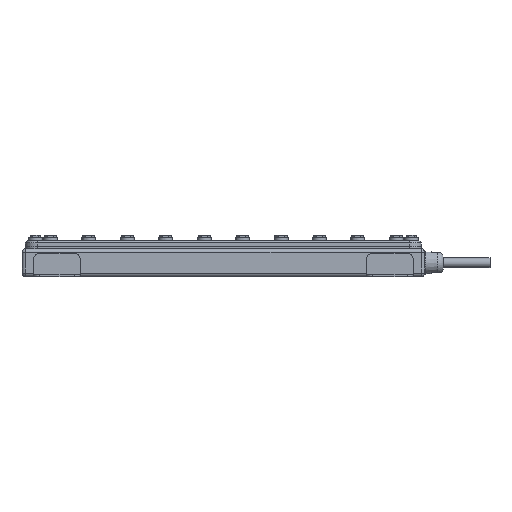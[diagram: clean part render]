
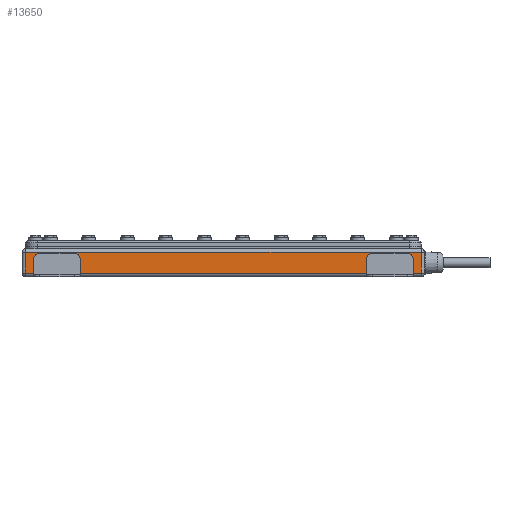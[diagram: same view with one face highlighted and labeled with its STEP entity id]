
A CAD part, front view. The second image highlights one B-rep face of the part: STEP entity #13650.
In plain terms, the highlighted planar face has unit normal (0, -1, 0).
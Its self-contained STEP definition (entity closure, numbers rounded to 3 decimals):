
#70 = AXIS2_PLACEMENT_3D ( 'NONE', #18233, #13494, #10799 ) ;
#112 = VERTEX_POINT ( 'NONE', #4411 ) ;
#127 = LINE ( 'NONE', #14952, #18665 ) ;
#159 = VECTOR ( 'NONE', #3472, 1000. ) ;
#299 = VERTEX_POINT ( 'NONE', #15267 ) ;
#357 = VECTOR ( 'NONE', #8074, 1000. ) ;
#365 = CARTESIAN_POINT ( 'NONE',  ( 158., -273., 20. ) ) ;
#495 = LINE ( 'NONE', #9402, #3150 ) ;
#658 = ORIENTED_EDGE ( 'NONE', *, *, #10766, .F. ) ;
#833 = DIRECTION ( 'NONE',  ( 0., 0., 1. ) ) ;
#1037 = ORIENTED_EDGE ( 'NONE', *, *, #17104, .T. ) ;
#1044 = DIRECTION ( 'NONE',  ( 0., 1., 0. ) ) ;
#1056 = ORIENTED_EDGE ( 'NONE', *, *, #10452, .F. ) ;
#1374 = VECTOR ( 'NONE', #3577, 1000. ) ;
#1498 = PLANE ( 'NONE',  #16930 ) ;
#2040 = LINE ( 'NONE', #13756, #2586 ) ;
#2290 = CARTESIAN_POINT ( 'NONE',  ( -123., -273., 3. ) ) ;
#2365 = VERTEX_POINT ( 'NONE', #2794 ) ;
#2489 = LINE ( 'NONE', #17317, #10479 ) ;
#2528 = EDGE_CURVE ( 'NONE', #13957, #10745, #15816, .T. ) ;
#2586 = VECTOR ( 'NONE', #6515, 1000. ) ;
#2590 = DIRECTION ( 'NONE',  ( 0., 0., 1. ) ) ;
#2794 = CARTESIAN_POINT ( 'NONE',  ( -158., -273., 20. ) ) ;
#2976 = EDGE_CURVE ( 'NONE', #10118, #5478, #495, .T. ) ;
#2993 = CARTESIAN_POINT ( 'NONE',  ( 163., -273., 3. ) ) ;
#3150 = VECTOR ( 'NONE', #16850, 1000. ) ;
#3447 = AXIS2_PLACEMENT_3D ( 'NONE', #12283, #1044, #11202 ) ;
#3472 = DIRECTION ( 'NONE',  ( -1., 0., 0. ) ) ;
#3488 = EDGE_CURVE ( 'NONE', #11463, #9399, #18494, .T. ) ;
#3577 = DIRECTION ( 'NONE',  ( -1., 0., 0. ) ) ;
#4041 = CARTESIAN_POINT ( 'NONE',  ( 170., -273., 24. ) ) ;
#4088 = EDGE_CURVE ( 'NONE', #6479, #7069, #17394, .T. ) ;
#4411 = CARTESIAN_POINT ( 'NONE',  ( -170., -273., 21. ) ) ;
#4519 = VERTEX_POINT ( 'NONE', #14158 ) ;
#4769 = CARTESIAN_POINT ( 'NONE',  ( -158., -273., 15. ) ) ;
#4918 = CARTESIAN_POINT ( 'NONE',  ( 163., -273., 0. ) ) ;
#5103 = CARTESIAN_POINT ( 'NONE',  ( -163., -273., 0. ) ) ;
#5233 = VECTOR ( 'NONE', #2590, 1000. ) ;
#5478 = VERTEX_POINT ( 'NONE', #9251 ) ;
#5510 = LINE ( 'NONE', #4041, #5233 ) ;
#5827 = EDGE_CURVE ( 'NONE', #299, #4519, #12548, .T. ) ;
#6047 = DIRECTION ( 'NONE',  ( -1., 0., 0. ) ) ;
#6052 = VERTEX_POINT ( 'NONE', #18919 ) ;
#6101 = DIRECTION ( 'NONE',  ( 1., 0., 0. ) ) ;
#6479 = VERTEX_POINT ( 'NONE', #10389 ) ;
#6514 = EDGE_CURVE ( 'NONE', #4519, #2365, #9830, .T. ) ;
#6515 = DIRECTION ( 'NONE',  ( 0., 0., 1. ) ) ;
#6582 = EDGE_CURVE ( 'NONE', #8475, #9672, #12301, .T. ) ;
#7069 = VERTEX_POINT ( 'NONE', #8141 ) ;
#7139 = CARTESIAN_POINT ( 'NONE',  ( 163., -273., 15. ) ) ;
#7419 = CARTESIAN_POINT ( 'NONE',  ( -173., -273., 24. ) ) ;
#7759 = LINE ( 'NONE', #13734, #12269 ) ;
#7845 = EDGE_CURVE ( 'NONE', #112, #10946, #2489, .T. ) ;
#7870 = VECTOR ( 'NONE', #18248, 1000. ) ;
#8066 = LINE ( 'NONE', #9219, #1374 ) ;
#8074 = DIRECTION ( 'NONE',  ( 1., 0., 0. ) ) ;
#8141 = CARTESIAN_POINT ( 'NONE',  ( 128., -273., 20. ) ) ;
#8336 = EDGE_CURVE ( 'NONE', #5478, #6052, #5510, .T. ) ;
#8361 = CARTESIAN_POINT ( 'NONE',  ( -128., -273., 20. ) ) ;
#8419 = ORIENTED_EDGE ( 'NONE', *, *, #2528, .T. ) ;
#8475 = VERTEX_POINT ( 'NONE', #365 ) ;
#8495 = CARTESIAN_POINT ( 'NONE',  ( 123., -273., 0. ) ) ;
#8726 = EDGE_CURVE ( 'NONE', #9399, #6479, #9657, .T. ) ;
#8954 = DIRECTION ( 'NONE',  ( 0., 0., 1. ) ) ;
#9219 = CARTESIAN_POINT ( 'NONE',  ( -163., -273., 20. ) ) ;
#9251 = CARTESIAN_POINT ( 'NONE',  ( 170., -273., 3. ) ) ;
#9399 = VERTEX_POINT ( 'NONE', #13424 ) ;
#9402 = CARTESIAN_POINT ( 'NONE',  ( 173., -273., 3. ) ) ;
#9423 = CARTESIAN_POINT ( 'NONE',  ( 123., -273., 3. ) ) ;
#9516 = AXIS2_PLACEMENT_3D ( 'NONE', #12934, #14670, #14480 ) ;
#9657 = LINE ( 'NONE', #8495, #11720 ) ;
#9672 = VERTEX_POINT ( 'NONE', #7139 ) ;
#9830 = CIRCLE ( 'NONE', #13835, 5. ) ;
#10118 = VERTEX_POINT ( 'NONE', #2993 ) ;
#10389 = CARTESIAN_POINT ( 'NONE',  ( 123., -273., 15. ) ) ;
#10441 = ORIENTED_EDGE ( 'NONE', *, *, #10748, .F. ) ;
#10452 = EDGE_CURVE ( 'NONE', #10118, #9672, #16434, .T. ) ;
#10479 = VECTOR ( 'NONE', #13325, 1000. ) ;
#10745 = VERTEX_POINT ( 'NONE', #16769 ) ;
#10748 = EDGE_CURVE ( 'NONE', #11463, #10745, #2040, .T. ) ;
#10766 = EDGE_CURVE ( 'NONE', #13957, #2365, #8066, .T. ) ;
#10799 = DIRECTION ( 'NONE',  ( 0., 0., 1. ) ) ;
#10946 = VERTEX_POINT ( 'NONE', #12874 ) ;
#11015 = EDGE_LOOP ( 'NONE', ( #1056, #16838, #16245, #1037, #15674, #14015, #17411, #18123, #658, #8419, #10441, #14407, #17634, #12237, #14762, #11756 ) ) ;
#11092 = EDGE_CURVE ( 'NONE', #8475, #7069, #127, .T. ) ;
#11202 = DIRECTION ( 'NONE',  ( 0., 0., 1. ) ) ;
#11463 = VERTEX_POINT ( 'NONE', #2290 ) ;
#11720 = VECTOR ( 'NONE', #833, 1000. ) ;
#11756 = ORIENTED_EDGE ( 'NONE', *, *, #6582, .T. ) ;
#12207 = LINE ( 'NONE', #16760, #159 ) ;
#12237 = ORIENTED_EDGE ( 'NONE', *, *, #4088, .T. ) ;
#12269 = VECTOR ( 'NONE', #6101, 1000. ) ;
#12283 = CARTESIAN_POINT ( 'NONE',  ( -128., -273., 15. ) ) ;
#12301 = CIRCLE ( 'NONE', #9516, 5. ) ;
#12504 = DIRECTION ( 'NONE',  ( 0., 0., 1. ) ) ;
#12548 = LINE ( 'NONE', #5103, #16305 ) ;
#12874 = CARTESIAN_POINT ( 'NONE',  ( -170., -273., 3. ) ) ;
#12934 = CARTESIAN_POINT ( 'NONE',  ( 158., -273., 15. ) ) ;
#13031 = EDGE_CURVE ( 'NONE', #10946, #299, #7759, .T. ) ;
#13294 = DIRECTION ( 'NONE',  ( 0., 1., 0. ) ) ;
#13325 = DIRECTION ( 'NONE',  ( 0., 0., -1. ) ) ;
#13424 = CARTESIAN_POINT ( 'NONE',  ( 123., -273., 3. ) ) ;
#13494 = DIRECTION ( 'NONE',  ( 0., 1., 0. ) ) ;
#13650 = ADVANCED_FACE ( 'NONE', ( #14756 ), #1498, .F. ) ;
#13734 = CARTESIAN_POINT ( 'NONE',  ( -163., -273., 3. ) ) ;
#13756 = CARTESIAN_POINT ( 'NONE',  ( -123., -273., 0. ) ) ;
#13835 = AXIS2_PLACEMENT_3D ( 'NONE', #4769, #16872, #12504 ) ;
#13957 = VERTEX_POINT ( 'NONE', #8361 ) ;
#14015 = ORIENTED_EDGE ( 'NONE', *, *, #13031, .T. ) ;
#14158 = CARTESIAN_POINT ( 'NONE',  ( -163., -273., 15. ) ) ;
#14407 = ORIENTED_EDGE ( 'NONE', *, *, #3488, .T. ) ;
#14480 = DIRECTION ( 'NONE',  ( 0., 0., 1. ) ) ;
#14670 = DIRECTION ( 'NONE',  ( 0., 1., 0. ) ) ;
#14756 = FACE_OUTER_BOUND ( 'NONE', #11015, .T. ) ;
#14762 = ORIENTED_EDGE ( 'NONE', *, *, #11092, .F. ) ;
#14952 = CARTESIAN_POINT ( 'NONE',  ( 163., -273., 20. ) ) ;
#15267 = CARTESIAN_POINT ( 'NONE',  ( -163., -273., 3. ) ) ;
#15674 = ORIENTED_EDGE ( 'NONE', *, *, #7845, .T. ) ;
#15816 = CIRCLE ( 'NONE', #3447, 5. ) ;
#16245 = ORIENTED_EDGE ( 'NONE', *, *, #8336, .T. ) ;
#16305 = VECTOR ( 'NONE', #17109, 1000. ) ;
#16434 = LINE ( 'NONE', #4918, #7870 ) ;
#16760 = CARTESIAN_POINT ( 'NONE',  ( -173., -273., 21. ) ) ;
#16769 = CARTESIAN_POINT ( 'NONE',  ( -123., -273., 15. ) ) ;
#16838 = ORIENTED_EDGE ( 'NONE', *, *, #2976, .T. ) ;
#16850 = DIRECTION ( 'NONE',  ( 1., 0., 0. ) ) ;
#16872 = DIRECTION ( 'NONE',  ( 0., 1., 0. ) ) ;
#16930 = AXIS2_PLACEMENT_3D ( 'NONE', #7419, #13294, #8954 ) ;
#17104 = EDGE_CURVE ( 'NONE', #6052, #112, #12207, .T. ) ;
#17109 = DIRECTION ( 'NONE',  ( 0., 0., 1. ) ) ;
#17317 = CARTESIAN_POINT ( 'NONE',  ( -170., -273., 24. ) ) ;
#17394 = CIRCLE ( 'NONE', #70, 5. ) ;
#17411 = ORIENTED_EDGE ( 'NONE', *, *, #5827, .T. ) ;
#17634 = ORIENTED_EDGE ( 'NONE', *, *, #8726, .T. ) ;
#18123 = ORIENTED_EDGE ( 'NONE', *, *, #6514, .T. ) ;
#18233 = CARTESIAN_POINT ( 'NONE',  ( 128., -273., 15. ) ) ;
#18248 = DIRECTION ( 'NONE',  ( 0., 0., 1. ) ) ;
#18494 = LINE ( 'NONE', #9423, #357 ) ;
#18665 = VECTOR ( 'NONE', #6047, 1000. ) ;
#18919 = CARTESIAN_POINT ( 'NONE',  ( 170., -273., 21. ) ) ;
